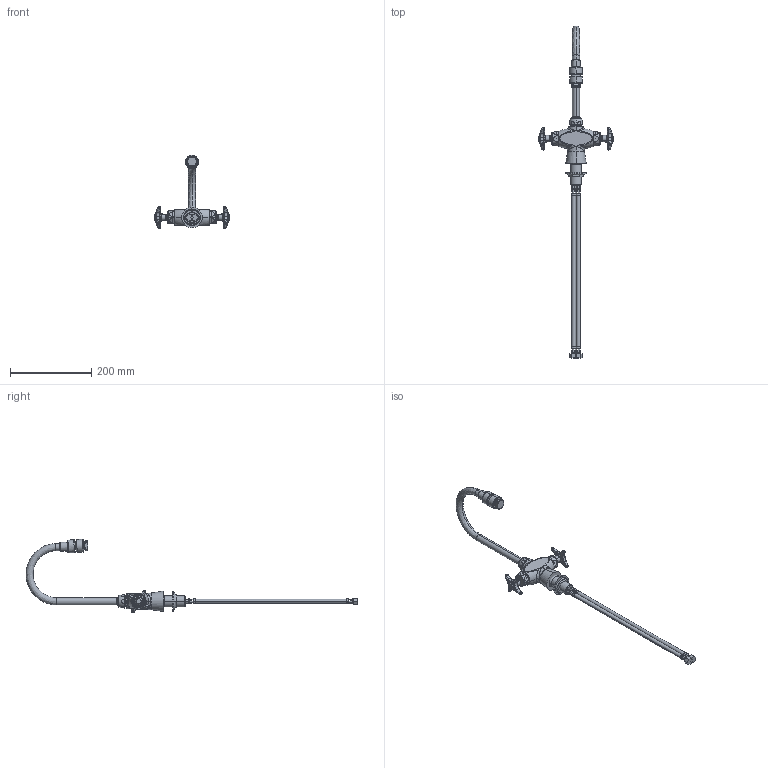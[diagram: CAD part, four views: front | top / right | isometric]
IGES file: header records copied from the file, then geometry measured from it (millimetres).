
Start section:  PTC IGES file: 929-e22cp_REV103013.igs
Global section: file name: 929-e22cp_REV103013.igs; native system: Creo Parametric by Parametric Technology Corporation; preprocessor: 2013050; author: SDmitruk; organization: Unknown; date: 20131030.171729; units: inch
Bounding box: 183.36 x 816.69 x 180.47 mm (x, y, z)
Surface area: 113070.5 mm2 (no closed solid volume)
Topology: 0 solids, 0 shells, 574 faces, 4095 edges, 5471 vertices
Faces by surface type: bspline 404, revolution 170
